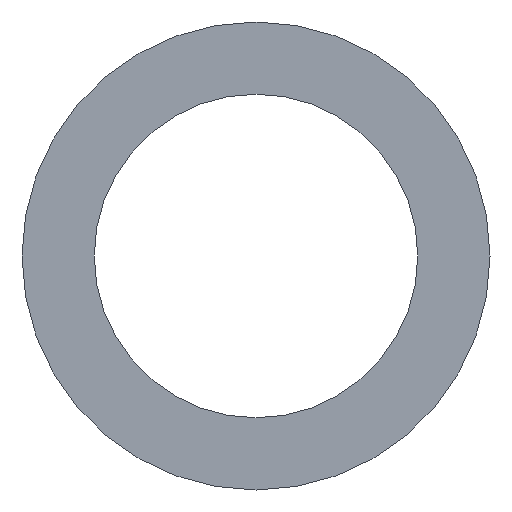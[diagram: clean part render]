
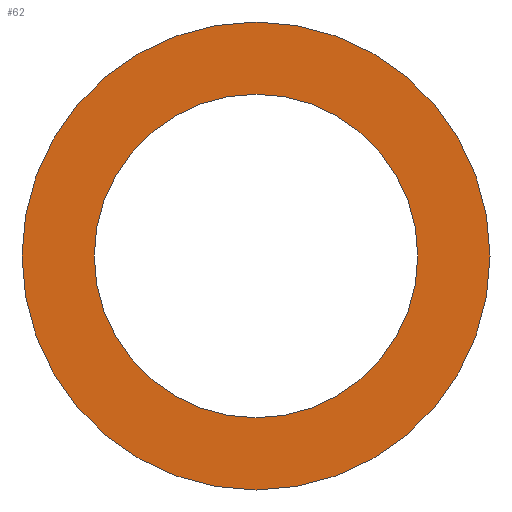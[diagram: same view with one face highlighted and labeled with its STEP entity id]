
A CAD part, front view. The second image highlights one B-rep face of the part: STEP entity #62.
In plain terms, the highlighted planar face has unit normal (0, -1, 0).
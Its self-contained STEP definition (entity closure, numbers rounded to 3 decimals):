
#20=PLANE('',#83);
#26=ORIENTED_EDGE('',*,*,#30,.T.);
#27=ORIENTED_EDGE('',*,*,#32,.F.);
#30=EDGE_CURVE('',#34,#34,#38,.T.);
#32=EDGE_CURVE('',#36,#36,#40,.T.);
#34=VERTEX_POINT('',#106);
#36=VERTEX_POINT('',#111);
#38=CIRCLE('',#78,56.);
#40=CIRCLE('',#81,81.);
#46=EDGE_LOOP('',(#26));
#47=EDGE_LOOP('',(#27));
#54=FACE_BOUND('',#46,.T.);
#55=FACE_BOUND('',#47,.T.);
#62=ADVANCED_FACE('',(#54,#55),#20,.F.);
#78=AXIS2_PLACEMENT_3D('',#105,#89,#90);
#81=AXIS2_PLACEMENT_3D('',#110,#95,#96);
#83=AXIS2_PLACEMENT_3D('',#114,#99,#100);
#89=DIRECTION('',(0.,1.,0.));
#90=DIRECTION('',(1.,0.,0.));
#95=DIRECTION('',(0.,1.,0.));
#96=DIRECTION('',(1.,0.,0.));
#99=DIRECTION('',(0.,1.,0.));
#100=DIRECTION('',(0.,0.,1.));
#105=CARTESIAN_POINT('',(0.,-1.5,0.));
#106=CARTESIAN_POINT('',(56.,-1.5,0.));
#110=CARTESIAN_POINT('',(0.,-1.5,0.));
#111=CARTESIAN_POINT('',(81.,-1.5,0.));
#114=CARTESIAN_POINT('',(0.,-1.5,0.));
